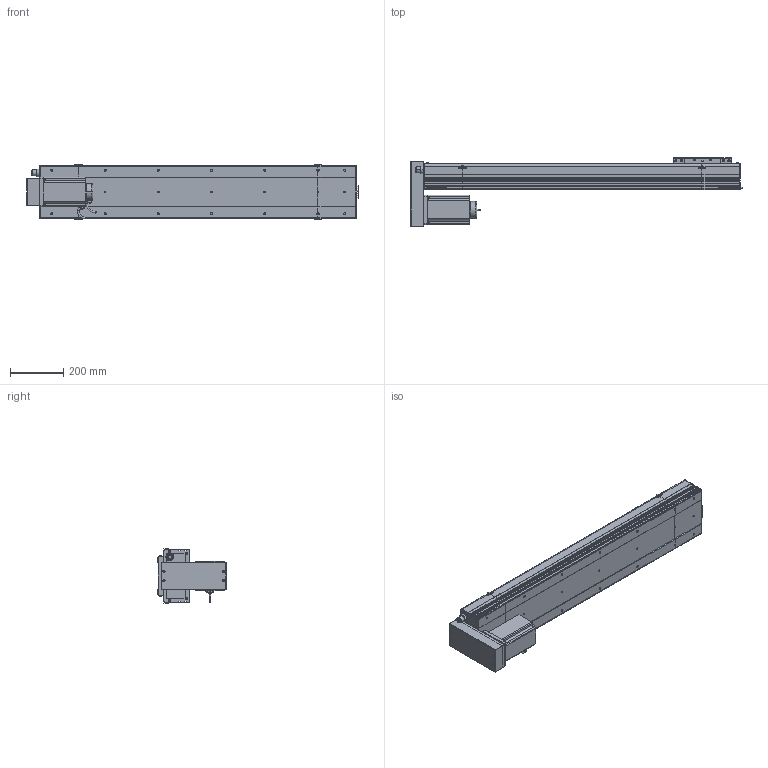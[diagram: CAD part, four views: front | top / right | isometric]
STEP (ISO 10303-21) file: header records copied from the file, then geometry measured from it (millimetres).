
FILE_DESCRIPTION (( 'STEP AP214' ), '1' );
FILE_NAME ('D20 CSH BM S900.STEP', '2010-06-30T08:13:24', ( 'Conseil Régional Haute-Normandie' ), ( 'Conseil Régional Haute-Normandie' ), 'SwSTEP 2.0', 'SolidWorks 2010', '' );
FILE_SCHEMA (( 'AUTOMOTIVE_DESIGN' ));
Length unit declared in the file: millimetre
Products named in the file (31): ecrou_Default; D20 CSH BM S900; vis M5 L30_Default; Couvercle_Default; Corp Tail D20+100_Default; Tail D20+100_Default; Corp D20 S900_Default; Plaque De Serrage D20_Default; Plaque de Bout Tail D20_Default; Chariot D20_Default; Couvercle S900_Default; Corp S900_Default; Glissiere_Default; Support Chariot D20_Default; Support moteur BM D20_Default; Plaque de Bout Head BM D20_Default; Head BM D20_Default; corps 110BLDC170A-630x; avant 110BLDC170A-630x; Moteur motionking 110BLDC170A-640x; clavette; Conecteur_Default; Conecteur2_Default; codeur 110BLDC170A-630x; vis M5 L15_Default; Couvercle Head BM_Default; Corp Head BM D20_Default; Plaque De Serrage Head BM D20_Default; vis M5 L47_Default; Cache Moteur BM D20_Default
Assembly tree (58 placements, depth 4):
  D20 CSH BM S900
    Chariot D20_Default
      vis M5 L15_Default  x8
      Glissiere_Default
      Chariot D20_Default
      Support Chariot D20_Default
    Head BM D20_Default
      vis M5 L30_Default  x4
      ecrou_Default  x4
      vis M5 L15_Default  x6
      vis M5 L47_Default  x4
      Couvercle Head BM_Default
      Cache Moteur BM D20_Default
      Plaque de Bout Head BM D20_Default
      Corp Head BM D20_Default
      Moteur motionking 110BLDC170A-640x
        corps 110BLDC170A-630x
        avant 110BLDC170A-630x
        clavette
        codeur 110BLDC170A-630x
        Conecteur_Default
        Conecteur2_Default
      Support moteur BM D20_Default
      Plaque De Serrage Head BM D20_Default
    Corp D20 S900_Default
      Couvercle S900_Default
      Corp S900_Default
    Tail D20+100_Default
      vis M5 L15_Default  x6
      Plaque De Serrage D20_Default
      Couvercle_Default
      Plaque de Bout Tail D20_Default
      Corp Tail D20+100_Default
Bounding box: 1247.7 x 257.5 x 206 mm (x, y, z)
Volume: 10507733.3 mm3; surface area: 1987661.2 mm2
Topology: 95 solids, 95 shells, 3520 faces, 8869 edges, 5781 vertices
Faces by surface type: plane 1977, bspline 806, cylinder 599, torus 79, cone 59
Entity records: 156913 total; most frequent: CARTESIAN_POINT 81880, ORIENTED_EDGE 14886, DIRECTION 11123, EDGE_CURVE 7443, VERTEX_POINT 4929, VECTOR 4883, LINE 4883, EDGE_LOOP 3168
